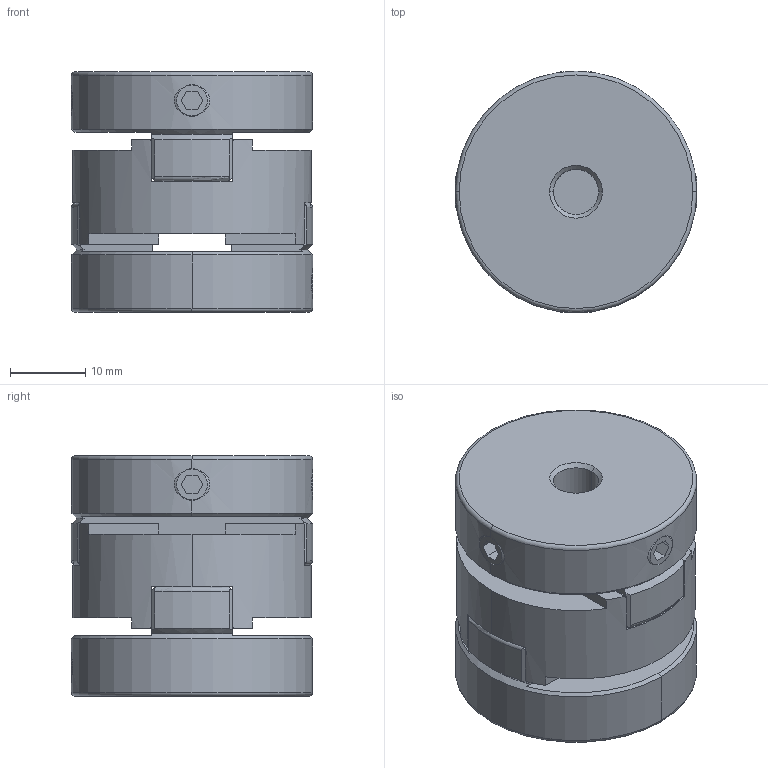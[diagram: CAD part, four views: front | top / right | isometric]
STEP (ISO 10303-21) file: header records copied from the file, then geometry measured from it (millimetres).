
FILE_DESCRIPTION (( 'STEP AP203' ), '1' );
FILE_NAME ('SOH-32-6X15_203.STEP', '2013-01-24T02:17:58', ( '' ), ( '' ), 'SwSTEP 2.0', 'SolidWorks 2012', '' );
FILE_SCHEMA (( 'CONFIG_CONTROL_DESIGN' ));
Length unit declared in the file: millimetre
Products named in the file (1): SOH-32-6X15_203
Bounding box: 32 x 32 x 31.9 mm (x, y, z)
Volume: 19544.2 mm3; surface area: 8419.5 mm2
Topology: 1 solids, 1 shells, 172 faces, 499 edges, 322 vertices
Faces by surface type: plane 89, cylinder 47, cone 20, sphere 8, torus 8
Entity records: 6283 total; most frequent: CARTESIAN_POINT 1705, ORIENTED_EDGE 998, DIRECTION 891, EDGE_CURVE 499, VERTEX_POINT 322, AXIS2_PLACEMENT_3D 313, VECTOR 265, LINE 265
